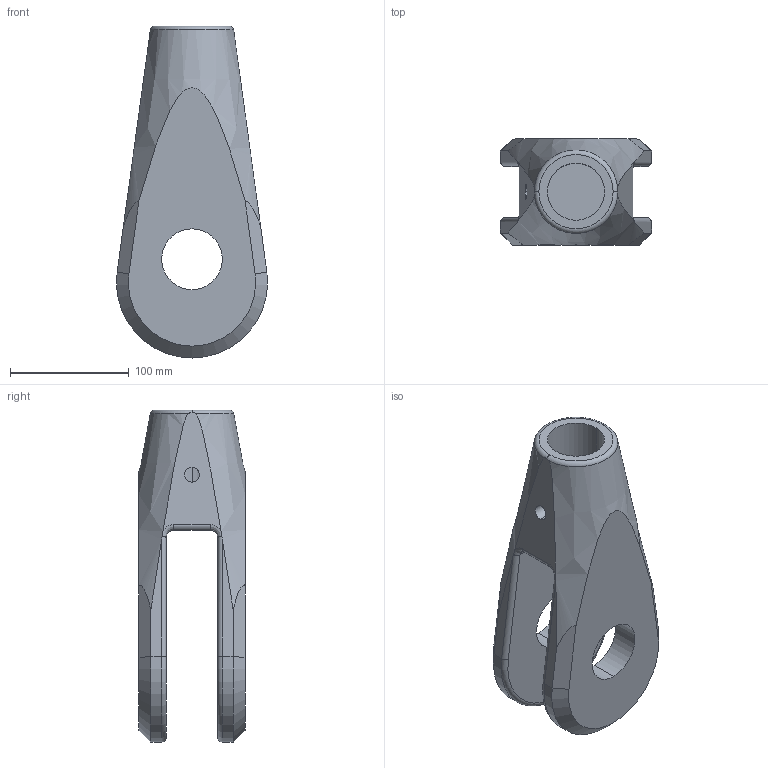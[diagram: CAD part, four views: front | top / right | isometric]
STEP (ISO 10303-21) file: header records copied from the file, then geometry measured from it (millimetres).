
FILE_DESCRIPTION (( 'STEP AP203' ), '1' );
FILE_NAME ('Gabelkopf M48.STEP', '2018-02-20T06:38:43', ( 'install' ), ( 'Hewlett-Packard Company' ), 'SwSTEP 2.0', 'SolidWorks 2017', '' );
FILE_SCHEMA (( 'CONFIG_CONTROL_DESIGN' ));
Length unit declared in the file: millimetre
Products named in the file (1): Gabelkopf M48
Bounding box: 126.93 x 89.2 x 279 mm (x, y, z)
Volume: 1166750.8 mm3; surface area: 138977.9 mm2
Topology: 1 solids, 1 shells, 51 faces, 127 edges, 78 vertices
Faces by surface type: cylinder 20, plane 17, cone 5, torus 5, bspline 4
Entity records: 2135 total; most frequent: CARTESIAN_POINT 899, ORIENTED_EDGE 254, DIRECTION 230, EDGE_CURVE 127, AXIS2_PLACEMENT_3D 93, VERTEX_POINT 78, EDGE_LOOP 57, ADVANCED_FACE 51
